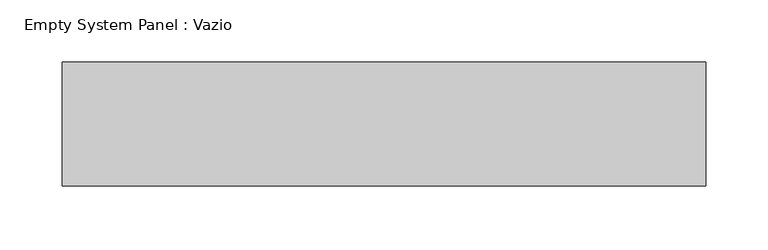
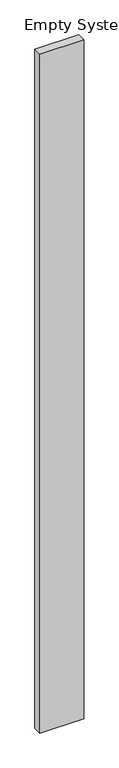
"""IFC4 building model written with IfcOpenShell, lengths in millimetres: plate geometry, Empty System Panel : Vazio."""

from ifc_helpers import new_model, si_unit, origin, origin_with_axes, place, context, project, spatial, polyline, outline, extrude, source, transform, mapped, element, save


def empty_system_panel_vazio_a4060a7b(model_context):
    return source(origin(), model_context, "Body", "SweptSolid", [
        extrude(outline(polyline([(258.9285716, 50.0), (-258.9285716, 50.0), (-258.9285716, 150.0), (258.9285716, 150.0), (258.9285716, 50.0)])), origin_with_axes(), (0.0, 0.0, 1.0), 8478.8498048),
    ])


if __name__ == "__main__":
    model = new_model("IFC4")
    model_context = context("Model", 3, world=origin())
    ifc_project = project(units=[si_unit("LENGTHUNIT", "METRE", prefix="MILLI")], contexts=[model_context])
    site = spatial("IfcSite", under=ifc_project)
    building = spatial("IfcBuilding", under=site)
    placement = place(None, origin())
    empty_system_panel_vazio_shape = empty_system_panel_vazio_a4060a7b(model_context)
    element("IfcPlate", 1, ObjectType="Empty System Panel : Vazio", at=placement, inside=building, context=model_context, shape_type="MappedRepresentation", body=[
        mapped(empty_system_panel_vazio_shape, transform((0.0, 0.0, 0.0), x_axis=(1.0, 0.0, 0.0), y_axis=(0.0, 1.0, 0.0), z_axis=(0.0, 0.0, 1.0))),
    ])
    save(model, "model.ifc")
